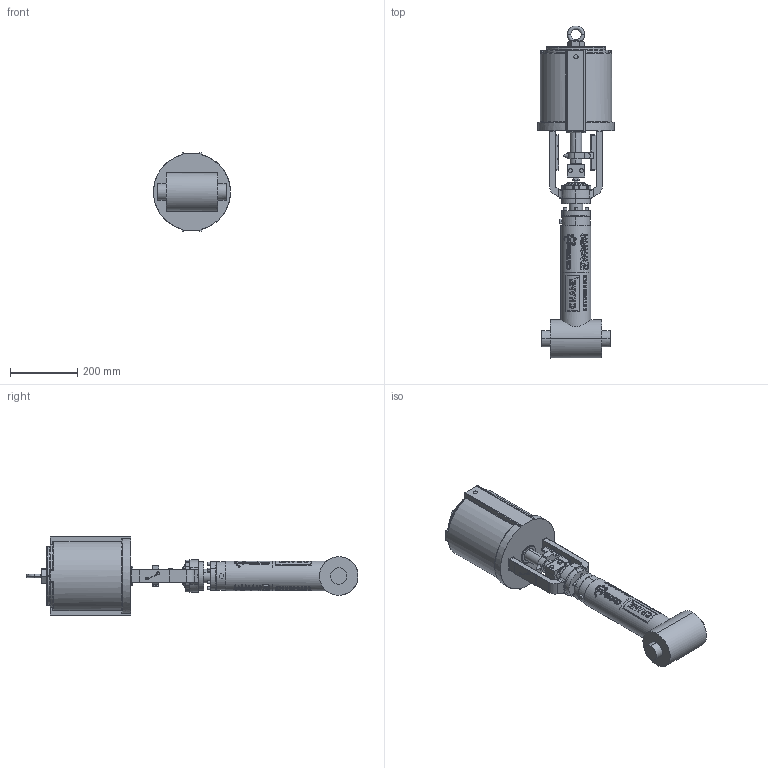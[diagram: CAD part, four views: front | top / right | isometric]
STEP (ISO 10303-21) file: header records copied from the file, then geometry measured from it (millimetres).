
FILE_DESCRIPTION (( 'STEP AP203' ), '1' );
FILE_NAME ('1.5IN T-PATTERN PNEUMATIC CRANE BELLOWS SEAL VALVE.step', '2025-12-17T20:05:41', ( '' ), ( '' ), 'SwSTEP 2.0', 'SolidWorks 2023', '' );
FILE_SCHEMA (( 'CONFIG_CONTROL_DESIGN' ));
Products named in the file (1): 1.5IN T-PATTERN PNEUMATIC CRANE BELLOWS SEAL VALVE
Bounding box: 228.33 x 985.34 x 231.65 mm (x, y, z)
Surface area: 907891.5 mm2 (no closed solid volume)
Topology: 0 solids, 2 shells, 2035 faces, 5376 edges, 3466 vertices
Faces by surface type: plane 972, cylinder 669, bspline 196, torus 96, cone 68, sphere 34
Full cylindrical faces by diameter (mm): 1.494 x2, 1.636 x2, 1.778 x2, 2.039 x2, 2.302 x2, 2.967 x2, 3.071 x2, 3.409 x2, 3.632 x2, 3.807 x2, 4.009 x2, 4.573 x2, 6.177 x2, 7.63 x2, 9.232 x2, 10.749 x2, 88.9 x1
Entity records: 135065 total; most frequent: CARTESIAN_POINT 93068, ORIENTED_EDGE 10475, DIRECTION 5876, EDGE_CURVE 5279, VERTEX_POINT 3459, B_SPLINE_CURVE_WITH_KNOTS 2628, EDGE_LOOP 2324, AXIS2_PLACEMENT_3D 2172
